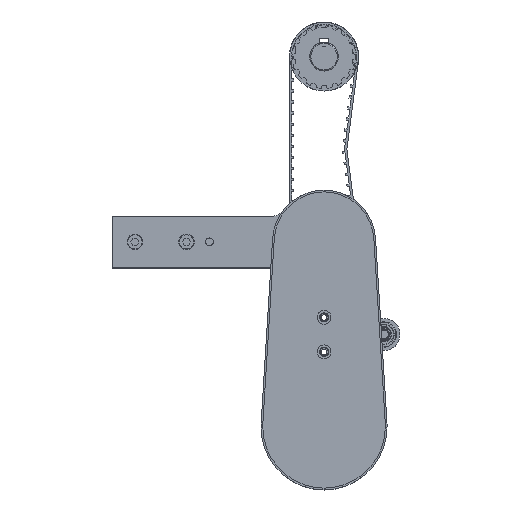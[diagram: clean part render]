
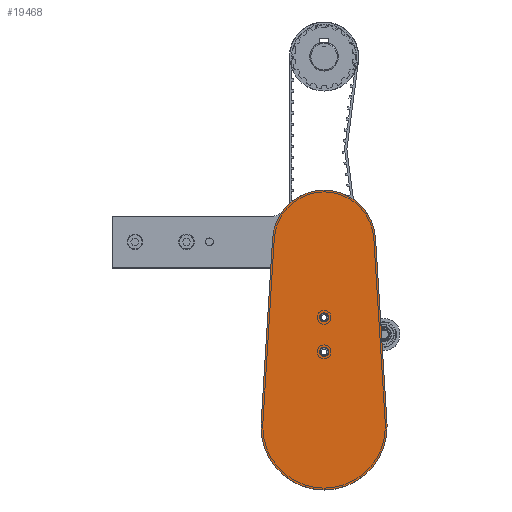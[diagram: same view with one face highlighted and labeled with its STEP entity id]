
A CAD part, top view. The second image highlights one B-rep face of the part: STEP entity #19468.
In plain terms, the highlighted planar face has unit normal (0, 0, 1) as drawn and (0, 0, -1) by its records, which use the part's own axes.
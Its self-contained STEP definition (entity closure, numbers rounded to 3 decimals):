
#904 = EDGE_CURVE ( 'NONE', #29728, #16057, #13920, .T. ) ;
#1127 = CIRCLE ( 'NONE', #28576, 3.5 ) ;
#1344 = DIRECTION ( 'NONE',  ( 1., 0., 0. ) ) ;
#1700 = EDGE_CURVE ( 'NONE', #18530, #27421, #5222, .T. ) ;
#2054 = CARTESIAN_POINT ( 'NONE',  ( 55., 0., 0. ) ) ;
#3611 = DIRECTION ( 'NONE',  ( 0., 0., -1. ) ) ;
#3919 = DIRECTION ( 'NONE',  ( 1., 0., 0. ) ) ;
#3942 = VERTEX_POINT ( 'NONE', #32201 ) ;
#5222 = CIRCLE ( 'NONE', #11456, 45. ) ;
#5242 = DIRECTION ( 'NONE',  ( 1., 0., 0. ) ) ;
#5349 = DIRECTION ( 'NONE',  ( 0., 0., 1. ) ) ;
#5378 = EDGE_CURVE ( 'NONE', #35238, #22820, #30568, .T. ) ;
#5504 = CARTESIAN_POINT ( 'NONE',  ( 0., 0., 0. ) ) ;
#5799 = ORIENTED_EDGE ( 'NONE', *, *, #28363, .F. ) ;
#5835 = DIRECTION ( 'NONE',  ( 1., 0., 0. ) ) ;
#6028 = CIRCLE ( 'NONE', #18242, 55. ) ;
#6488 = PLANE ( 'NONE',  #36201 ) ;
#6489 = FACE_OUTER_BOUND ( 'NONE', #12664, .T. ) ;
#6531 = EDGE_CURVE ( 'NONE', #9350, #3942, #1127, .T. ) ;
#6659 = AXIS2_PLACEMENT_3D ( 'NONE', #20819, #23087, #17434 ) ;
#7141 = EDGE_CURVE ( 'NONE', #3942, #9350, #22092, .T. ) ;
#7167 = LINE ( 'NONE', #12592, #24162 ) ;
#7458 = ORIENTED_EDGE ( 'NONE', *, *, #6531, .F. ) ;
#8103 = CARTESIAN_POINT ( 'NONE',  ( -44.914, 164.286, 0. ) ) ;
#8144 = EDGE_LOOP ( 'NONE', ( #14190, #10480 ) ) ;
#8955 = ORIENTED_EDGE ( 'NONE', *, *, #22478, .F. ) ;
#9350 = VERTEX_POINT ( 'NONE', #32917 ) ;
#9463 = DIRECTION ( 'NONE',  ( 1., 0., 0. ) ) ;
#9571 = VERTEX_POINT ( 'NONE', #36512 ) ;
#10480 = ORIENTED_EDGE ( 'NONE', *, *, #23534, .F. ) ;
#10488 = FACE_BOUND ( 'NONE', #8144, .T. ) ;
#10809 = CARTESIAN_POINT ( 'NONE',  ( 0., 161.5, 0. ) ) ;
#10859 = DIRECTION ( 'NONE',  ( 1., 0., 0. ) ) ;
#11456 = AXIS2_PLACEMENT_3D ( 'NONE', #10809, #5349, #5242 ) ;
#12219 = CARTESIAN_POINT ( 'NONE',  ( -44.914, 164.286, 0. ) ) ;
#12592 = CARTESIAN_POINT ( 'NONE',  ( 44.914, 164.286, 0. ) ) ;
#12664 = EDGE_LOOP ( 'NONE', ( #25365, #8955, #24702, #5799, #13770, #14083 ) ) ;
#12907 = CARTESIAN_POINT ( 'NONE',  ( 0., 65.5, 0. ) ) ;
#13201 = DIRECTION ( 'NONE',  ( 0., 0., 1. ) ) ;
#13233 = AXIS2_PLACEMENT_3D ( 'NONE', #12907, #21519, #24548 ) ;
#13770 = ORIENTED_EDGE ( 'NONE', *, *, #19564, .F. ) ;
#13920 = CIRCLE ( 'NONE', #6659, 3.5 ) ;
#14083 = ORIENTED_EDGE ( 'NONE', *, *, #30490, .F. ) ;
#14190 = ORIENTED_EDGE ( 'NONE', *, *, #904, .F. ) ;
#15908 = AXIS2_PLACEMENT_3D ( 'NONE', #35718, #15953, #1344 ) ;
#15953 = DIRECTION ( 'NONE',  ( 0., 0., 1. ) ) ;
#16057 = VERTEX_POINT ( 'NONE', #31033 ) ;
#17434 = DIRECTION ( 'NONE',  ( 1., 0., 0. ) ) ;
#18242 = AXIS2_PLACEMENT_3D ( 'NONE', #35528, #13201, #3919 ) ;
#18319 = CARTESIAN_POINT ( 'NONE',  ( 54.894, 3.406, 0. ) ) ;
#18530 = VERTEX_POINT ( 'NONE', #20802 ) ;
#19468 = ADVANCED_FACE ( 'NONE', ( #10488, #26602, #6489 ), #6488, .F. ) ;
#19564 = EDGE_CURVE ( 'NONE', #9571, #30151, #6028, .T. ) ;
#19738 = VECTOR ( 'NONE', #28516, 1000. ) ;
#20802 = CARTESIAN_POINT ( 'NONE',  ( 44.914, 164.286, 0. ) ) ;
#20819 = CARTESIAN_POINT ( 'NONE',  ( 0., 95.5, 0. ) ) ;
#21519 = DIRECTION ( 'NONE',  ( 0., 0., -1. ) ) ;
#22092 = CIRCLE ( 'NONE', #13233, 3.5 ) ;
#22478 = EDGE_CURVE ( 'NONE', #22820, #18530, #7167, .T. ) ;
#22820 = VERTEX_POINT ( 'NONE', #18319 ) ;
#23087 = DIRECTION ( 'NONE',  ( 0., 0., -1. ) ) ;
#23534 = EDGE_CURVE ( 'NONE', #16057, #29728, #32320, .T. ) ;
#24162 = VECTOR ( 'NONE', #35356, 1000. ) ;
#24548 = DIRECTION ( 'NONE',  ( 1., 0., 0. ) ) ;
#24702 = ORIENTED_EDGE ( 'NONE', *, *, #5378, .F. ) ;
#25365 = ORIENTED_EDGE ( 'NONE', *, *, #1700, .F. ) ;
#25558 = LINE ( 'NONE', #8103, #19738 ) ;
#26460 = DIRECTION ( 'NONE',  ( 0., 0., 1. ) ) ;
#26592 = EDGE_LOOP ( 'NONE', ( #28224, #7458 ) ) ;
#26602 = FACE_BOUND ( 'NONE', #26592, .T. ) ;
#27421 = VERTEX_POINT ( 'NONE', #12219 ) ;
#28224 = ORIENTED_EDGE ( 'NONE', *, *, #7141, .F. ) ;
#28363 = EDGE_CURVE ( 'NONE', #30151, #35238, #32471, .T. ) ;
#28401 = DIRECTION ( 'NONE',  ( 0., 0., 1. ) ) ;
#28516 = DIRECTION ( 'NONE',  ( -0.062, -0.998, 0. ) ) ;
#28576 = AXIS2_PLACEMENT_3D ( 'NONE', #32207, #3611, #29755 ) ;
#29728 = VERTEX_POINT ( 'NONE', #32796 ) ;
#29755 = DIRECTION ( 'NONE',  ( 1., 0., 0. ) ) ;
#30151 = VERTEX_POINT ( 'NONE', #34685 ) ;
#30490 = EDGE_CURVE ( 'NONE', #27421, #9571, #25558, .T. ) ;
#30568 = CIRCLE ( 'NONE', #32605, 55. ) ;
#31033 = CARTESIAN_POINT ( 'NONE',  ( -3.5, 95.5, 0. ) ) ;
#32201 = CARTESIAN_POINT ( 'NONE',  ( 3.5, 65.5, 0. ) ) ;
#32207 = CARTESIAN_POINT ( 'NONE',  ( 0., 65.5, 0. ) ) ;
#32320 = CIRCLE ( 'NONE', #34711, 3.5 ) ;
#32471 = CIRCLE ( 'NONE', #15908, 55. ) ;
#32605 = AXIS2_PLACEMENT_3D ( 'NONE', #5504, #28401, #10859 ) ;
#32796 = CARTESIAN_POINT ( 'NONE',  ( 3.5, 95.5, 0. ) ) ;
#32917 = CARTESIAN_POINT ( 'NONE',  ( -3.5, 65.5, 0. ) ) ;
#34347 = CARTESIAN_POINT ( 'NONE',  ( 0., 95.5, 0. ) ) ;
#34685 = CARTESIAN_POINT ( 'NONE',  ( -55., 0., 0. ) ) ;
#34711 = AXIS2_PLACEMENT_3D ( 'NONE', #34347, #36820, #5835 ) ;
#35228 = CARTESIAN_POINT ( 'NONE',  ( 0., 161.5, 0. ) ) ;
#35238 = VERTEX_POINT ( 'NONE', #2054 ) ;
#35356 = DIRECTION ( 'NONE',  ( -0.062, 0.998, 0. ) ) ;
#35528 = CARTESIAN_POINT ( 'NONE',  ( 0., 0., 0. ) ) ;
#35718 = CARTESIAN_POINT ( 'NONE',  ( 0., 0., 0. ) ) ;
#36201 = AXIS2_PLACEMENT_3D ( 'NONE', #35228, #26460, #9463 ) ;
#36512 = CARTESIAN_POINT ( 'NONE',  ( -54.894, 3.406, 0. ) ) ;
#36820 = DIRECTION ( 'NONE',  ( 0., 0., -1. ) ) ;
